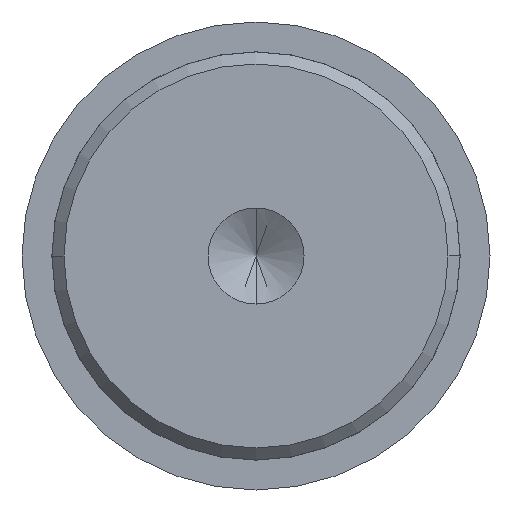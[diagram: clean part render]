
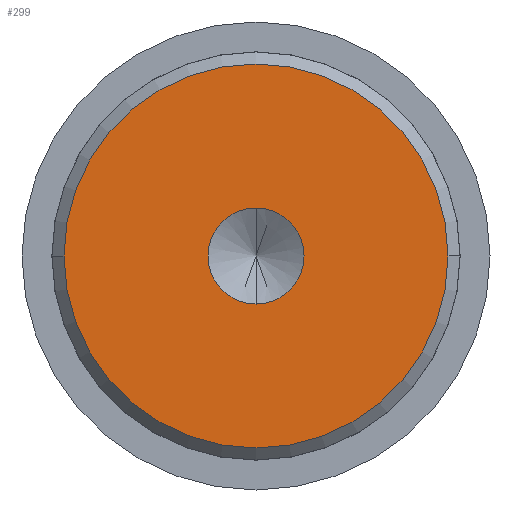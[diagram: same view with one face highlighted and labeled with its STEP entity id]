
A CAD part, left-side view. The second image highlights one B-rep face of the part: STEP entity #299.
In plain terms, the highlighted planar face has unit normal (-1, 0, 0).
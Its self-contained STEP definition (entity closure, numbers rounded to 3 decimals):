
#39 = CARTESIAN_POINT ( 'NONE',  ( -84., 0., -4. ) ) ;
#44 = CARTESIAN_POINT ( 'NONE',  ( -84., 0., 4. ) ) ;
#46 = CARTESIAN_POINT ( 'NONE',  ( -84., -16., 0. ) ) ;
#53 = CARTESIAN_POINT ( 'NONE',  ( -84., 16., 0. ) ) ;
#125 = EDGE_LOOP ( 'NONE', ( #277, #260 ) ) ;
#161 = EDGE_LOOP ( 'NONE', ( #283, #234 ) ) ;
#192 = AXIS2_PLACEMENT_3D ( 'NONE', #787, #788, #789 ) ;
#234 = ORIENTED_EDGE ( 'NONE', *, *, #760, .T. ) ;
#260 = ORIENTED_EDGE ( 'NONE', *, *, #767, .T. ) ;
#277 = ORIENTED_EDGE ( 'NONE', *, *, #757, .T. ) ;
#283 = ORIENTED_EDGE ( 'NONE', *, *, #756, .T. ) ;
#299 = ADVANCED_FACE ( 'NONE', ( #784, #785 ), #786, .T. ) ;
#348 = CIRCLE ( 'NONE', #349, 16. ) ;
#349 = AXIS2_PLACEMENT_3D ( 'NONE', #471, #472, #473 ) ;
#350 = CIRCLE ( 'NONE', #352, 4. ) ;
#352 = AXIS2_PLACEMENT_3D ( 'NONE', #474, #475, #476 ) ;
#411 = VERTEX_POINT ( 'NONE', #39 ) ;
#417 = VERTEX_POINT ( 'NONE', #44 ) ;
#421 = VERTEX_POINT ( 'NONE', #46 ) ;
#437 = VERTEX_POINT ( 'NONE', #53 ) ;
#471 = CARTESIAN_POINT ( 'NONE',  ( -84., 0., 0. ) ) ;
#472 = DIRECTION ( 'NONE',  ( -1., 0., 0. ) ) ;
#473 = DIRECTION ( 'NONE',  ( 0., 1., 0. ) ) ;
#474 = CARTESIAN_POINT ( 'NONE',  ( -84., 0., 0. ) ) ;
#475 = DIRECTION ( 'NONE',  ( 1., 0., 0. ) ) ;
#476 = DIRECTION ( 'NONE',  ( 0., 0., -1. ) ) ;
#483 = CARTESIAN_POINT ( 'NONE',  ( -84., 0., 0. ) ) ;
#484 = DIRECTION ( 'NONE',  ( -1., 0., 0. ) ) ;
#485 = DIRECTION ( 'NONE',  ( 0., 1., 0. ) ) ;
#504 = CARTESIAN_POINT ( 'NONE',  ( -84., 0., 0. ) ) ;
#505 = DIRECTION ( 'NONE',  ( 1., 0., 0. ) ) ;
#506 = DIRECTION ( 'NONE',  ( 0., 0., -1. ) ) ;
#545 = CIRCLE ( 'NONE', #546, 16. ) ;
#546 = AXIS2_PLACEMENT_3D ( 'NONE', #483, #484, #485 ) ;
#548 = AXIS2_PLACEMENT_3D ( 'NONE', #504, #505, #506 ) ;
#549 = CIRCLE ( 'NONE', #548, 4. ) ;
#756 = EDGE_CURVE ( 'NONE', #437, #421, #348, .T. ) ;
#757 = EDGE_CURVE ( 'NONE', #411, #417, #350, .T. ) ;
#760 = EDGE_CURVE ( 'NONE', #421, #437, #545, .T. ) ;
#767 = EDGE_CURVE ( 'NONE', #417, #411, #549, .T. ) ;
#784 = FACE_BOUND ( 'NONE', #125, .T. ) ;
#785 = FACE_OUTER_BOUND ( 'NONE', #161, .T. ) ;
#786 = PLANE ( 'NONE',  #192 ) ;
#787 = CARTESIAN_POINT ( 'NONE',  ( -84., -16.192, -16.192 ) ) ;
#788 = DIRECTION ( 'NONE',  ( -1., 0., 0. ) ) ;
#789 = DIRECTION ( 'NONE',  ( 0., 0., 1. ) ) ;
